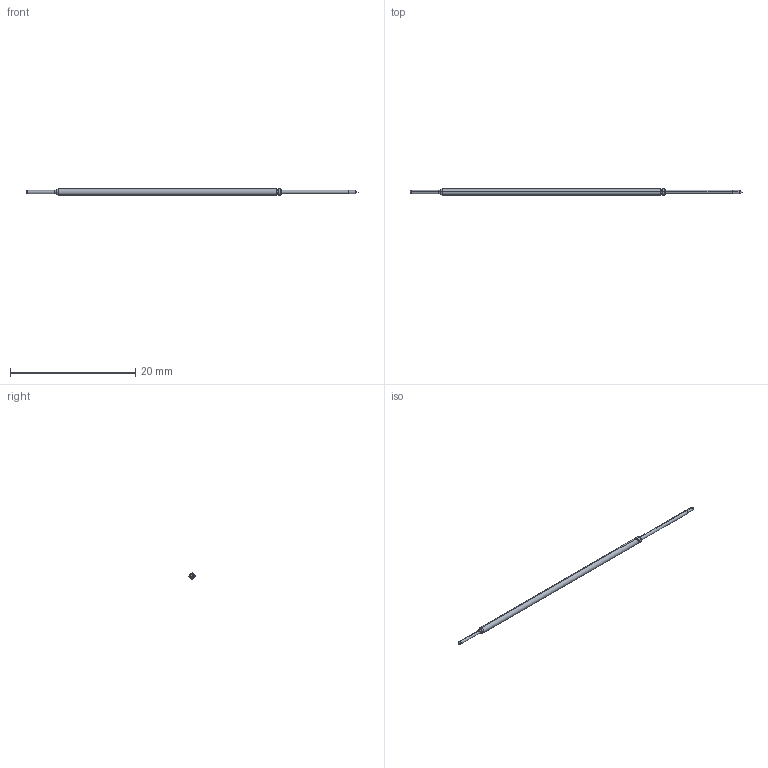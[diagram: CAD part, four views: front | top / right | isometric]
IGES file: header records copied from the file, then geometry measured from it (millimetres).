
Start section: SolidWorks IGES file using analytic representation for surfaces
Global section: file name: C:\Documents and Settings\mrumschlag\Desktop\changes\new\test\I8.IGS; native system: SolidWorks 2011; preprocessor: SolidWorks 2011; author: mrumschlag; date: 110630.163410; units: inch
Bounding box: 53.09 x 0.97 x 0.97 mm (x, y, z)
Surface area: 139.2 mm2 (no closed solid volume)
Topology: 0 solids, 0 shells, 39 faces, 206 edges, 204 vertices
Faces by surface type: bspline 21, revolution 18
